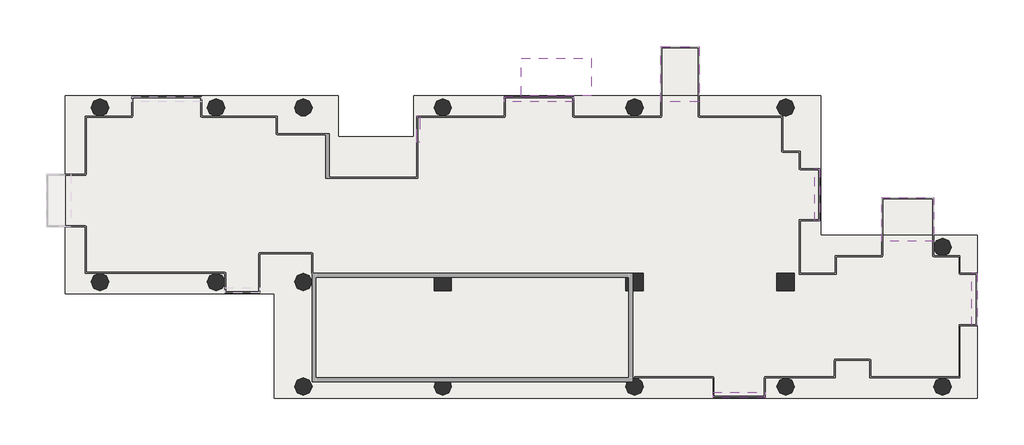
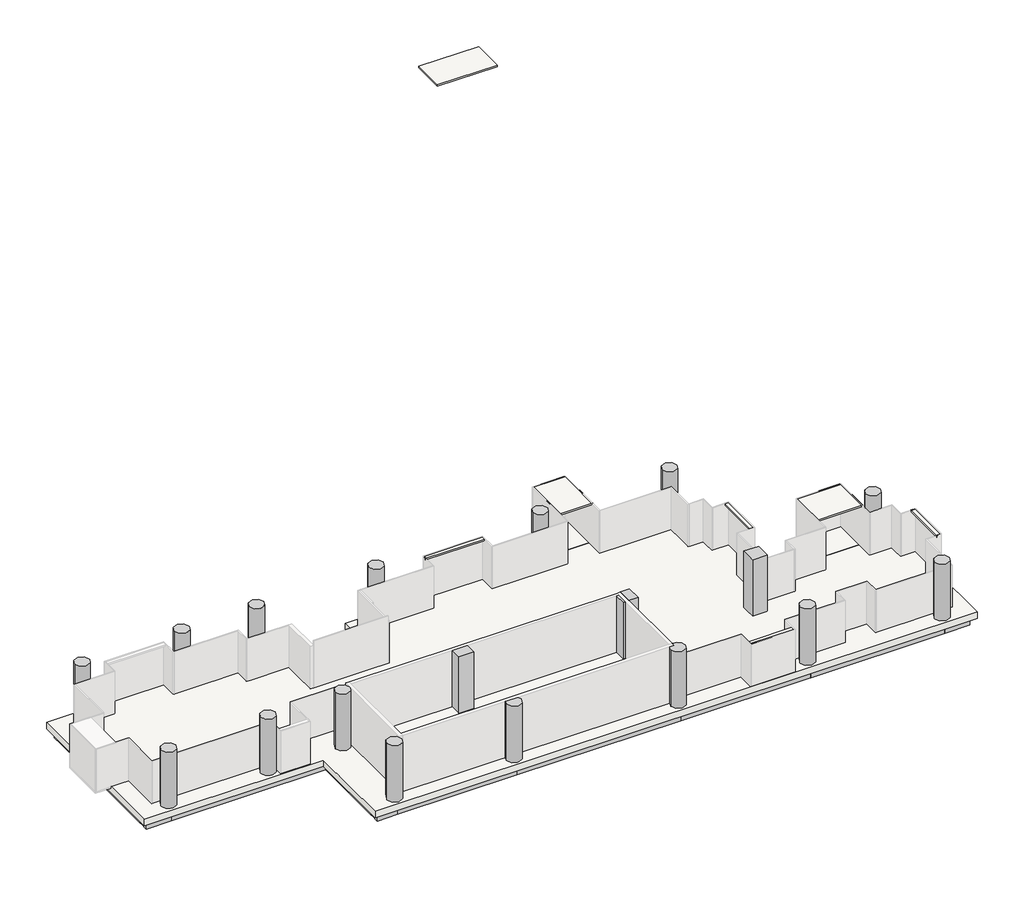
# One storey, part 2 of 2: 35 slabs, 25 beams, 18 columns.
"""IFC4 building model written with IfcOpenShell, lengths in millimetres."""

from ifc_helpers import new_model, si_unit, point, frame, frame_2d, origin, place, context, project, spatial, polyline, circle_curve, trimmed, segment, composite_curve, outline, extrude, transform, mapped, element, save
from ifc_brep_helpers import plane_surface, cylinder_surface, advanced_brep
from components import ajn_arc_ossature_rec_ba_700x600_5242ffbb, ajn_arc_ossature_rec_ba_700x600_213c05e2, ajn_arc_ossature_rec_ba_700x600_4d623bda, ajn_arc_ossature_rec_ba_700x600_c2a8f1af, ajn_arc_ossature_rec_ba_700x600_b2f97811, ajn_arc_ossature_rec_ba_700x600_e688680c, ajn_arc_ossature_rec_ba_700x600_8adee879, ajn_arc_ossature_rec_ba_700x600_6677e51c, ajn_arc_ossature_rec_ba_700x600_60e35d56, ajn_arc_ossature_rec_ba_700x600_9ae0f913, ajn_arc_ossature_rec_ba_700x600_5c14351b, ajn_arc_ossature_rec_ba_700x600_e883967f, ajn_arc_ossature_rec_ba_700x600_0984b03c, ajn_arc_ossature_rec_ba_700x600_78f846f2, ajn_arc_ossature_rec_ba_700x600_e869caa8, ajn_arc_ossature_rec_ba_700x600_0388eb48, ajn_arc_ossature_rec_ba_700x600_e143517c, ajn_arc_ossature_rec_ba_700x600_758f1bfa, ajn_arc_ossature_rec_ba_700x600_64ba80e1, ajn_arc_poteau_circulaire_8d925d50

model = new_model("IFC4")

# Units and contexts
model_context = context("Model", 3, world=origin())
ifc_project = project(units=[si_unit("LENGTHUNIT", "METRE", prefix="MILLI")], contexts=[model_context])

# Site, building, storey
site = spatial("IfcSite", under=ifc_project)
building = spatial("IfcBuilding", under=site)
storey = spatial("IfcBuildingStorey", under=building, Name="TW-L 09", Elevation=31599.9999686)

# Beams
placement = place(None, origin())
ajn_arc_ossature_rec_ba_700x600_shape = ajn_arc_ossature_rec_ba_700x600_5242ffbb(model_context)
element("IfcBeam", 1, ObjectType="AJN-ARC-OSSATURE REC-BA : 700x600", at=placement, inside=storey, context=model_context, shape_type="MappedRepresentation", body=[
    mapped(ajn_arc_ossature_rec_ba_700x600_shape, transform((119350.0, 39300.0, 31049.9999686), x_axis=(-1.0, 0.0, 0.0), y_axis=(0.0, -1.0, 0.0), z_axis=(0.0, 0.0, 1.0))),
])
ajn_arc_ossature_rec_ba_700x600_2_shape = ajn_arc_ossature_rec_ba_700x600_213c05e2(model_context)
element("IfcBeam", 2, ObjectType="AJN-ARC-OSSATURE REC-BA : 700x600", at=placement, inside=storey, context=model_context, shape_type="MappedRepresentation", body=[
    mapped(ajn_arc_ossature_rec_ba_700x600_2_shape, transform((100900.0, 34800.0, 31049.9999686), x_axis=(0.0, -1.0, 0.0), y_axis=(1.0, 0.0, 0.0), z_axis=(0.0, 0.0, 1.0))),
])
ajn_arc_ossature_rec_ba_700x600_3_shape = ajn_arc_ossature_rec_ba_700x600_4d623bda(model_context)
element("IfcBeam", 3, ObjectType="AJN-ARC-OSSATURE REC-BA : 700x600", at=placement, inside=storey, context=model_context, shape_type="MappedRepresentation", body=[
    mapped(ajn_arc_ossature_rec_ba_700x600_3_shape, transform((112150.0, 24900.0, 31049.9999686), x_axis=(1.0, 0.0, 0.0), y_axis=(0.0, 1.0, 0.0), z_axis=(0.0, 0.0, 1.0))),
])
ajn_arc_ossature_rec_ba_700x600_4_shape = ajn_arc_ossature_rec_ba_700x600_c2a8f1af(model_context)
element("IfcBeam", 4, ObjectType="AJN-ARC-OSSATURE REC-BA : 700x600", at=placement, inside=storey, context=model_context, shape_type="MappedRepresentation", body=[
    mapped(ajn_arc_ossature_rec_ba_700x600_4_shape, transform((116200.0, 24900.0, 31049.9999686), x_axis=(1.0, 0.0, 0.0), y_axis=(0.0, 1.0, 0.0), z_axis=(0.0, 0.0, 1.0))),
])
ajn_arc_ossature_rec_ba_700x600_5_shape = ajn_arc_ossature_rec_ba_700x600_b2f97811(model_context)
element("IfcBeam", 5, ObjectType="AJN-ARC-OSSATURE REC-BA : 700x600", at=placement, inside=storey, context=model_context, shape_type="MappedRepresentation", body=[
    mapped(ajn_arc_ossature_rec_ba_700x600_5_shape, transform((106900.0, 30300.0, 31049.9999686), x_axis=(1.0, 0.0, 0.0), y_axis=(0.0, 1.0, 0.0), z_axis=(0.0, 0.0, 1.0))),
])
ajn_arc_ossature_rec_ba_700x600_6_shape = ajn_arc_ossature_rec_ba_700x600_e688680c(model_context)
element("IfcBeam", 6, ObjectType="AJN-ARC-OSSATURE REC-BA : 700x600", at=placement, inside=storey, context=model_context, shape_type="MappedRepresentation", body=[
    mapped(ajn_arc_ossature_rec_ba_700x600_6_shape, transform((111700.0, 27600.0, 31049.9999686), x_axis=(0.0, -1.0, 0.0), y_axis=(1.0, 0.0, 0.0), z_axis=(0.0, 0.0, 1.0))),
])
ajn_arc_ossature_rec_ba_700x600_7_shape = ajn_arc_ossature_rec_ba_700x600_8adee879(model_context)
element("IfcBeam", 7, ObjectType="AJN-ARC-OSSATURE REC-BA : 700x600", at=placement, inside=storey, context=model_context, shape_type="MappedRepresentation", body=[
    mapped(ajn_arc_ossature_rec_ba_700x600_7_shape, transform((124750.0, 24900.0, 31049.9999686), x_axis=(1.0, 0.0, 0.0), y_axis=(0.0, 1.0, 0.0), z_axis=(0.0, 0.0, 1.0))),
])
element("IfcBeam", 8, ObjectType="AJN-ARC-OSSATURE REC-BA : 700x600", at=placement, inside=storey, context=model_context, shape_type="MappedRepresentation", body=[
    mapped(ajn_arc_ossature_rec_ba_700x600_7_shape, transform((124750.0, 39300.0, 31049.9999686), x_axis=(-1.0, 0.0, 0.0), y_axis=(0.0, -1.0, 0.0), z_axis=(0.0, 0.0, 1.0))),
])
ajn_arc_ossature_rec_ba_700x600_8_shape = ajn_arc_ossature_rec_ba_700x600_6677e51c(model_context)
element("IfcBeam", 9, ObjectType="AJN-ARC-OSSATURE REC-BA : 700x600", at=placement, inside=storey, context=model_context, shape_type="MappedRepresentation", body=[
    mapped(ajn_arc_ossature_rec_ba_700x600_8_shape, transform((133600.0, 24900.0, 31049.9999686), x_axis=(1.0, 0.0, 0.0), y_axis=(0.0, 1.0, 0.0), z_axis=(0.0, 0.0, 1.0))),
])
ajn_arc_ossature_rec_ba_700x600_9_shape = ajn_arc_ossature_rec_ba_700x600_60e35d56(model_context)
element("IfcBeam", 10, ObjectType="AJN-ARC-OSSATURE REC-BA : 700x600", at=placement, inside=storey, context=model_context, shape_type="MappedRepresentation", body=[
    mapped(ajn_arc_ossature_rec_ba_700x600_9_shape, transform((141550.0, 24900.0, 31049.9999686), x_axis=(1.0, 0.0, 0.0), y_axis=(0.0, 1.0, 0.0), z_axis=(0.0, 0.0, 1.0))),
])
ajn_arc_ossature_rec_ba_700x600_10_shape = ajn_arc_ossature_rec_ba_700x600_9ae0f913(model_context)
element("IfcBeam", 11, ObjectType="AJN-ARC-OSSATURE REC-BA : 700x600", at=placement, inside=storey, context=model_context, shape_type="MappedRepresentation", body=[
    mapped(ajn_arc_ossature_rec_ba_700x600_10_shape, transform((146200.0, 24900.0, 31049.9999686), x_axis=(1.0, 0.0, 0.0), y_axis=(0.0, 1.0, 0.0), z_axis=(0.0, 0.0, 1.0))),
])
element("IfcBeam", 12, ObjectType="AJN-ARC-OSSATURE REC-BA : 700x600", at=placement, inside=storey, context=model_context, shape_type="MappedRepresentation", body=[
    mapped(ajn_arc_ossature_rec_ba_700x600_10_shape, transform((101500.0, 39300.0, 31049.9999686), x_axis=(-1.0, 0.0, 0.0), y_axis=(0.0, -1.0, 0.0), z_axis=(0.0, 0.0, 1.0))),
])
ajn_arc_ossature_rec_ba_700x600_11_shape = ajn_arc_ossature_rec_ba_700x600_5c14351b(model_context)
element("IfcBeam", 13, ObjectType="AJN-ARC-OSSATURE REC-BA : 700x600", at=placement, inside=storey, context=model_context, shape_type="MappedRepresentation", body=[
    mapped(ajn_arc_ossature_rec_ba_700x600_11_shape, transform((146800.0, 28500.0, 31049.9999686), x_axis=(0.0, 1.0, 0.0), y_axis=(-1.0, 0.0, 0.0), z_axis=(0.0, 0.0, 1.0))),
])
element("IfcBeam", 14, ObjectType="AJN-ARC-OSSATURE REC-BA : 700x600", at=placement, inside=storey, context=model_context, shape_type="MappedRepresentation", body=[
    mapped(ajn_arc_ossature_rec_ba_700x600_11_shape, transform((138700.0, 35700.0, 31049.9999686), x_axis=(0.0, 1.0, 0.0), y_axis=(-1.0, 0.0, 0.0), z_axis=(0.0, 0.0, 1.0))),
])
ajn_arc_ossature_rec_ba_700x600_12_shape = ajn_arc_ossature_rec_ba_700x600_e883967f(model_context)
element("IfcBeam", 15, ObjectType="AJN-ARC-OSSATURE REC-BA : 700x600", at=placement, inside=storey, context=model_context, shape_type="MappedRepresentation", body=[
    mapped(ajn_arc_ossature_rec_ba_700x600_12_shape, transform((146200.0, 32100.0, 31049.9999686), x_axis=(-1.0, 0.0, 0.0), y_axis=(0.0, -1.0, 0.0), z_axis=(0.0, 0.0, 1.0))),
])
element("IfcBeam", 16, ObjectType="AJN-ARC-OSSATURE REC-BA : 700x600", at=placement, inside=storey, context=model_context, shape_type="MappedRepresentation", body=[
    mapped(ajn_arc_ossature_rec_ba_700x600_12_shape, transform((138100.0, 39300.0, 31049.9999686), x_axis=(-1.0, 0.0, 0.0), y_axis=(0.0, -1.0, 0.0), z_axis=(0.0, 0.0, 1.0))),
])
element("IfcBeam", 17, ObjectType="AJN-ARC-OSSATURE REC-BA : 700x600", at=placement, inside=storey, context=model_context, shape_type="MappedRepresentation", body=[
    mapped(ajn_arc_ossature_rec_ba_700x600_12_shape, transform((113200.0, 39300.0, 31049.9999686), x_axis=(-1.0, 0.0, 0.0), y_axis=(0.0, -1.0, 0.0), z_axis=(0.0, 0.0, 1.0))),
])
element("IfcBeam", 18, ObjectType="AJN-ARC-OSSATURE REC-BA : 700x600", at=placement, inside=storey, context=model_context, shape_type="MappedRepresentation", body=[
    mapped(ajn_arc_ossature_rec_ba_700x600_12_shape, transform((101500.0, 30300.0, 31049.9999686), x_axis=(1.0, 0.0, 0.0), y_axis=(0.0, 1.0, 0.0), z_axis=(0.0, 0.0, 1.0))),
])
ajn_arc_ossature_rec_ba_700x600_13_shape = ajn_arc_ossature_rec_ba_700x600_0984b03c(model_context)
element("IfcBeam", 19, ObjectType="AJN-ARC-OSSATURE REC-BA : 700x600", at=placement, inside=storey, context=model_context, shape_type="MappedRepresentation", body=[
    mapped(ajn_arc_ossature_rec_ba_700x600_13_shape, transform((142150.0, 32100.0, 31049.9999686), x_axis=(-1.0, 0.0, 0.0), y_axis=(0.0, -1.0, 0.0), z_axis=(0.0, 0.0, 1.0))),
])
ajn_arc_ossature_rec_ba_700x600_14_shape = ajn_arc_ossature_rec_ba_700x600_78f846f2(model_context)
element("IfcBeam", 20, ObjectType="AJN-ARC-OSSATURE REC-BA : 700x600", at=placement, inside=storey, context=model_context, shape_type="MappedRepresentation", body=[
    mapped(ajn_arc_ossature_rec_ba_700x600_14_shape, transform((133600.0, 39300.0, 31049.9999686), x_axis=(-1.0, 0.0, 0.0), y_axis=(0.0, -1.0, 0.0), z_axis=(0.0, 0.0, 1.0))),
])
ajn_arc_ossature_rec_ba_700x600_15_shape = ajn_arc_ossature_rec_ba_700x600_e869caa8(model_context)
element("IfcBeam", 21, ObjectType="AJN-ARC-OSSATURE REC-BA : 700x600", at=placement, inside=storey, context=model_context, shape_type="MappedRepresentation", body=[
    mapped(ajn_arc_ossature_rec_ba_700x600_15_shape, transform((118900.0, 38250.0, 31049.9999686), x_axis=(0.0, -1.0, 0.0), y_axis=(1.0, 0.0, 0.0), z_axis=(0.0, 0.0, 1.0))),
])
ajn_arc_ossature_rec_ba_700x600_16_shape = ajn_arc_ossature_rec_ba_700x600_0388eb48(model_context)
element("IfcBeam", 22, ObjectType="AJN-ARC-OSSATURE REC-BA : 700x600", at=placement, inside=storey, context=model_context, shape_type="MappedRepresentation", body=[
    mapped(ajn_arc_ossature_rec_ba_700x600_16_shape, transform((110350.0, 39300.0, 31049.9999686), x_axis=(-1.0, 0.0, 0.0), y_axis=(0.0, -1.0, 0.0), z_axis=(0.0, 0.0, 1.0))),
])
ajn_arc_ossature_rec_ba_700x600_17_shape = ajn_arc_ossature_rec_ba_700x600_e143517c(model_context)
element("IfcBeam", 23, ObjectType="AJN-ARC-OSSATURE REC-BA : 700x600", at=placement, inside=storey, context=model_context, shape_type="MappedRepresentation", body=[
    mapped(ajn_arc_ossature_rec_ba_700x600_17_shape, transform((105100.0, 39300.0, 31049.9999686), x_axis=(-1.0, 0.0, 0.0), y_axis=(0.0, -1.0, 0.0), z_axis=(0.0, 0.0, 1.0))),
])
ajn_arc_ossature_rec_ba_700x600_18_shape = ajn_arc_ossature_rec_ba_700x600_758f1bfa(model_context)
element("IfcBeam", 24, ObjectType="AJN-ARC-OSSATURE REC-BA : 700x600", at=placement, inside=storey, context=model_context, shape_type="MappedRepresentation", body=[
    mapped(ajn_arc_ossature_rec_ba_700x600_18_shape, transform((116350.0, 37200.0, 31049.9999686), x_axis=(-1.0, 0.0, 0.0), y_axis=(0.0, -1.0, 0.0), z_axis=(0.0, 0.0, 1.0))),
])
ajn_arc_ossature_rec_ba_700x600_19_shape = ajn_arc_ossature_rec_ba_700x600_64ba80e1(model_context)
element("IfcBeam", 25, ObjectType="AJN-ARC-OSSATURE REC-BA : 700x600", at=placement, inside=storey, context=model_context, shape_type="MappedRepresentation", body=[
    mapped(ajn_arc_ossature_rec_ba_700x600_19_shape, transform((113800.0, 38250.0, 31049.9999686), x_axis=(0.0, 1.0, 0.0), y_axis=(-1.0, 0.0, 0.0), z_axis=(0.0, 0.0, 1.0))),
])

# Columns
element("IfcColumn", 26, ObjectType="AJN-ARC-POTEAU CIRCULAIRE : ø90", at=placement, inside=storey, context=model_context, shape_type="SweptSolid", body=[
    extrude(outline(composite_curve([segment(trimmed(circle_curve(frame_2d((102100.0, 39300.0)), 450.0), [point((101650.0, 39300.0))], [point((102550.0, 39300.0))], False, "CARTESIAN"), True, "CONTINUOUS"), segment(trimmed(circle_curve(frame_2d((102100.0, 39300.0)), 450.0), [point((102550.0, 39300.0))], [point((101650.0, 39300.0))], False, "CARTESIAN"), True, "CONTINUOUS")], self_intersect=False)), frame((0.0, 0.0, 31599.9999686), z_axis=(0.0, 0.0, 1.0), x_axis=(1.0, 0.0, 0.0)), (0.0, 0.0, 1.0), 3600.0),
])
element("IfcColumn", 27, ObjectType="AJN-ARC-POTEAU CIRCULAIRE : ø90", at=placement, inside=storey, context=model_context, shape_type="SweptSolid", body=[
    extrude(outline(composite_curve([segment(trimmed(circle_curve(frame_2d((102100.0, 30300.0)), 450.0), [point((101650.0, 30300.0))], [point((102550.0, 30300.0))], False, "CARTESIAN"), True, "CONTINUOUS"), segment(trimmed(circle_curve(frame_2d((102100.0, 30300.0)), 450.0), [point((102550.0, 30300.0))], [point((101650.0, 30300.0))], False, "CARTESIAN"), True, "CONTINUOUS")], self_intersect=False)), frame((0.0, 0.0, 31599.9999686), z_axis=(0.0, 0.0, 1.0), x_axis=(1.0, 0.0, 0.0)), (0.0, 0.0, 1.0), 3600.0),
])
element("IfcColumn", 28, ObjectType="AJN-ARC-POTEAU CIRCULAIRE : ø90", at=placement, inside=storey, context=model_context, shape_type="AdvancedBrep", body=[
    advanced_brep(
    [(107650.0, 30300.0, 31599.9999686), (108547.1743518, 30350.3497671, 31599.9999686), (108547.1743518, 30249.6502329, 31599.9999686), (107650.0, 30300.0, 35199.9999686), (108550.0, 30300.0, 35199.9999686), (108550.0, 30300.0, 34299.9999686), (108547.1743518, 30350.3497671, 34299.9999686), (108547.1743518, 30249.6502329, 34299.9999686)],
    [
        (0, 1, circle_curve(frame((108100.0, 30300.0, 31599.9999686), z_axis=(0.0, 0.0, -1.0), x_axis=(1.0, 0.0, 0.0)), 450.0)),
        (1, 2),
        (2, 0, circle_curve(frame((108100.0, 30300.0, 31599.9999686), z_axis=(0.0, 0.0, -1.0), x_axis=(1.0, 0.0, 0.0)), 450.0)),
        (3, 4, circle_curve(frame((108100.0, 30300.0, 35199.9999686), z_axis=(0.0, 0.0, -1.0), x_axis=(1.0, 0.0, 0.0)), 450.0)),
        (4, 5),
        (5, 6, circle_curve(frame((108100.0, 30300.0, 34299.9999686), z_axis=(0.0, 0.0, 1.0), x_axis=(1.0, 0.0, 0.0)), 450.0)),
        (6, 1),
        (0, 3),
        (2, 7),
        (7, 5, circle_curve(frame((108100.0, 30300.0, 34299.9999686), z_axis=(0.0, 0.0, 1.0), x_axis=(1.0, 0.0, 0.0)), 450.0)),
        (4, 3, circle_curve(frame((108100.0, 30300.0, 35199.9999686), z_axis=(0.0, 0.0, -1.0), x_axis=(1.0, 0.0, 0.0)), 450.0)),
        (6, 7),
    ],
    [
        plane_surface(frame((108550.0, 30300.0, 31599.9999686), z_axis=(0.0, 0.0, -1.0), x_axis=(0.0, -1.0, 0.0))),
        cylinder_surface(frame((108100.0, 30300.0, 31599.9999686), z_axis=(0.0, 0.0, 1.0), x_axis=(1.0, 0.0, 0.0)), 450.0),
        plane_surface(frame((108550.0, 30300.0, 35199.9999686), z_axis=(0.0, 0.0, 1.0), x_axis=(0.0, 1.0, 0.0))),
        plane_surface(frame((108547.1743518, 30750.0, 31599.9999686), z_axis=(1.0, 0.0, 0.0), x_axis=(0.0, -1.0, 0.0))),
        plane_surface(frame((108547.1743518, 29775.0, 34299.9999686), z_axis=(0.0, 0.0, -1.0), x_axis=(1.0, 0.0, 0.0))),
    ],
    [
        (0, [[1, 2, 3]]),
        (1, [[4, 5, 6, 7, -1, 8]]),
        (1, [[-8, -3, 9, 10, -5, 11]]),
        (2, [[-4, -11]]),
        (3, [[12, -9, -2, -7]]),
        (4, [[-12, -6, -10]]),
    ],
),
])
element("IfcColumn", 29, ObjectType="AJN-ARC-POTEAU CIRCULAIRE : ø90", at=placement, inside=storey, context=model_context, shape_type="SweptSolid", body=[
    extrude(outline(composite_curve([segment(trimmed(circle_curve(frame_2d((108100.0, 39300.0)), 450.0), [point((107650.0, 39300.0))], [point((108550.0, 39300.0))], False, "CARTESIAN"), True, "CONTINUOUS"), segment(trimmed(circle_curve(frame_2d((108100.0, 39300.0)), 450.0), [point((108550.0, 39300.0))], [point((107650.0, 39300.0))], False, "CARTESIAN"), True, "CONTINUOUS")], self_intersect=False)), frame((0.0, 0.0, 31599.9999686), z_axis=(0.0, 0.0, 1.0), x_axis=(1.0, 0.0, 0.0)), (0.0, 0.0, 1.0), 3600.0),
])
element("IfcColumn", 30, ObjectType="AJN-ARC-POTEAU CIRCULAIRE : ø90", at=placement, inside=storey, context=model_context, shape_type="SweptSolid", body=[
    extrude(outline(composite_curve([segment(trimmed(circle_curve(frame_2d((112600.0, 30300.0)), 450.0), [point((112150.0, 30300.0))], [point((113050.0, 30300.0))], False, "CARTESIAN"), True, "CONTINUOUS"), segment(trimmed(circle_curve(frame_2d((112600.0, 30300.0)), 450.0), [point((113050.0, 30300.0))], [point((112150.0, 30300.0))], False, "CARTESIAN"), True, "CONTINUOUS")], self_intersect=False)), frame((0.0, 0.0, 31599.9999686), z_axis=(0.0, 0.0, 1.0), x_axis=(1.0, 0.0, 0.0)), (0.0, 0.0, 1.0), 3600.0),
])
element("IfcColumn", 31, ObjectType="AJN-ARC-POTEAU CIRCULAIRE : ø90", at=placement, inside=storey, context=model_context, shape_type="SweptSolid", body=[
    extrude(outline(composite_curve([segment(trimmed(circle_curve(frame_2d((112600.0, 24900.0)), 450.0), [point((112150.0, 24900.0))], [point((113050.0, 24900.0))], False, "CARTESIAN"), True, "CONTINUOUS"), segment(trimmed(circle_curve(frame_2d((112600.0, 24900.0)), 450.0), [point((113050.0, 24900.0))], [point((112150.0, 24900.0))], False, "CARTESIAN"), True, "CONTINUOUS")], self_intersect=False)), frame((0.0, 0.0, 31599.9999686), z_axis=(0.0, 0.0, 1.0), x_axis=(1.0, 0.0, 0.0)), (0.0, 0.0, 1.0), 3600.0),
])
element("IfcColumn", 32, ObjectType="AJN-ARC-POTEAU CIRCULAIRE : ø90", at=placement, inside=storey, context=model_context, shape_type="SweptSolid", body=[
    extrude(outline(composite_curve([segment(trimmed(circle_curve(frame_2d((119800.0, 24900.0)), 450.0), [point((120250.0, 24900.0))], [point((119350.0, 24900.0))], False, "CARTESIAN"), True, "CONTINUOUS"), segment(trimmed(circle_curve(frame_2d((119800.0, 24900.0)), 450.0), [point((119350.0, 24900.0))], [point((119425.8342613, 25150.0))], False, "CARTESIAN"), True, "CONTINUOUS"), segment(polyline([(119425.8342613, 25150.0), (120174.1657387, 25150.0)]), True, "CONTINUOUS"), segment(trimmed(circle_curve(frame_2d((119800.0, 24900.0)), 450.0), [point((120174.1657387, 25150.0))], [point((120250.0, 24900.0))], False, "CARTESIAN"), True, "CONTINUOUS")], self_intersect=False)), frame((0.0, 0.0, 31599.9999686), z_axis=(0.0, 0.0, 1.0), x_axis=(1.0, 0.0, 0.0)), (0.0, 0.0, 1.0), 3600.0),
])
element("IfcColumn", 33, ObjectType="AJN-ARC-POTEAU CIRCULAIRE : ø90", at=placement, inside=storey, context=model_context, shape_type="SweptSolid", body=[
    extrude(outline(composite_curve([segment(trimmed(circle_curve(frame_2d((119800.0, 39300.0)), 450.0), [point((119350.0, 39300.0))], [point((120250.0, 39300.0))], False, "CARTESIAN"), True, "CONTINUOUS"), segment(trimmed(circle_curve(frame_2d((119800.0, 39300.0)), 450.0), [point((120250.0, 39300.0))], [point((119350.0, 39300.0))], False, "CARTESIAN"), True, "CONTINUOUS")], self_intersect=False)), frame((0.0, 0.0, 31599.9999686), z_axis=(0.0, 0.0, 1.0), x_axis=(1.0, 0.0, 0.0)), (0.0, 0.0, 1.0), 3600.0),
])
element("IfcColumn", 34, ObjectType="AJN-ARC-POTEAU CIRCULAIRE : ø90", at=placement, inside=storey, context=model_context, shape_type="SweptSolid", body=[
    extrude(outline(composite_curve([segment(trimmed(circle_curve(frame_2d((129700.0, 39300.0)), 450.0), [point((129250.0, 39300.0))], [point((130150.0, 39300.0))], False, "CARTESIAN"), True, "CONTINUOUS"), segment(trimmed(circle_curve(frame_2d((129700.0, 39300.0)), 450.0), [point((130150.0, 39300.0))], [point((129250.0, 39300.0))], False, "CARTESIAN"), True, "CONTINUOUS")], self_intersect=False)), frame((0.0, 0.0, 31599.9999686), z_axis=(0.0, 0.0, 1.0), x_axis=(1.0, 0.0, 0.0)), (0.0, 0.0, 1.0), 3600.0),
])
element("IfcColumn", 35, ObjectType="AJN-ARC-POTEAU CIRCULAIRE : ø90", at=placement, inside=storey, context=model_context, shape_type="SweptSolid", body=[
    extrude(outline(composite_curve([segment(trimmed(circle_curve(frame_2d((129700.0, 24900.0)), 450.0), [point((130150.0, 24900.0))], [point((129250.0, 24900.0))], False, "CARTESIAN"), True, "CONTINUOUS"), segment(trimmed(circle_curve(frame_2d((129700.0, 24900.0)), 450.0), [point((129250.0, 24900.0))], [point((129325.8342613, 25150.0))], False, "CARTESIAN"), True, "CONTINUOUS"), segment(polyline([(129325.8342613, 25150.0), (129600.0, 25150.0), (129600.0, 25338.7482194)]), True, "CONTINUOUS"), segment(trimmed(circle_curve(frame_2d((129700.0, 24900.0)), 450.0), [point((129600.0, 25338.7482194))], [point((130150.0, 24900.0))], False, "CARTESIAN"), True, "CONTINUOUS")], self_intersect=False)), frame((0.0, 0.0, 31599.9999686), z_axis=(0.0, 0.0, 1.0), x_axis=(1.0, 0.0, 0.0)), (0.0, 0.0, 1.0), 3600.0),
])
element("IfcColumn", 36, ObjectType="AJN-ARC-POTEAU CIRCULAIRE : ø90", at=placement, inside=storey, context=model_context, shape_type="SweptSolid", body=[
    extrude(outline(composite_curve([segment(trimmed(circle_curve(frame_2d((137500.0, 39300.0)), 450.0), [point((137050.0, 39300.0))], [point((137950.0, 39300.0))], False, "CARTESIAN"), True, "CONTINUOUS"), segment(trimmed(circle_curve(frame_2d((137500.0, 39300.0)), 450.0), [point((137950.0, 39300.0))], [point((137050.0, 39300.0))], False, "CARTESIAN"), True, "CONTINUOUS")], self_intersect=False)), frame((0.0, 0.0, 31599.9999686), z_axis=(0.0, 0.0, 1.0), x_axis=(1.0, 0.0, 0.0)), (0.0, 0.0, 1.0), 3600.0),
])
element("IfcColumn", 37, ObjectType="AJN-ARC-POTEAU CIRCULAIRE : ø90", at=placement, inside=storey, context=model_context, shape_type="SweptSolid", body=[
    extrude(outline(composite_curve([segment(trimmed(circle_curve(frame_2d((137500.0, 24900.0)), 450.0), [point((137050.0, 24900.0))], [point((137950.0, 24900.0))], False, "CARTESIAN"), True, "CONTINUOUS"), segment(trimmed(circle_curve(frame_2d((137500.0, 24900.0)), 450.0), [point((137950.0, 24900.0))], [point((137050.0, 24900.0))], False, "CARTESIAN"), True, "CONTINUOUS")], self_intersect=False)), frame((0.0, 0.0, 31599.9999686), z_axis=(0.0, 0.0, 1.0), x_axis=(1.0, 0.0, 0.0)), (0.0, 0.0, 1.0), 3600.0),
])
element("IfcColumn", 38, ObjectType="AJN-ARC-POTEAU CIRCULAIRE : ø90", at=placement, inside=storey, context=model_context, shape_type="SweptSolid", body=[
    extrude(outline(composite_curve([segment(trimmed(circle_curve(frame_2d((145600.0, 24900.0)), 450.0), [point((145150.0, 24900.0))], [point((146050.0, 24900.0))], False, "CARTESIAN"), True, "CONTINUOUS"), segment(trimmed(circle_curve(frame_2d((145600.0, 24900.0)), 450.0), [point((146050.0, 24900.0))], [point((145150.0, 24900.0))], False, "CARTESIAN"), True, "CONTINUOUS")], self_intersect=False)), frame((0.0, 0.0, 31599.9999686), z_axis=(0.0, 0.0, 1.0), x_axis=(1.0, 0.0, 0.0)), (0.0, 0.0, 1.0), 3600.0),
])
element("IfcColumn", 39, ObjectType="AJN-ARC-POTEAU CIRCULAIRE : ø90", at=placement, inside=storey, context=model_context, shape_type="AdvancedBrep", body=[
    advanced_brep(
    [(145150.0, 32100.0, 31599.9999686), (146050.0, 32100.0, 31599.9999686), (145638.6089983, 31651.6593424, 31599.9999686), (145561.3910017, 31651.6593424, 31599.9999686), (145150.0, 32100.0, 35199.9999686), (146050.0, 32100.0, 35199.9999686), (145561.3910017, 31651.6593424, 34299.9999686), (145638.6089983, 31651.6593424, 34299.9999686)],
    [
        (0, 1, circle_curve(frame((145600.0, 32100.0, 31599.9999686), z_axis=(0.0, 0.0, -1.0), x_axis=(1.0, 0.0, 0.0)), 450.0)),
        (1, 2, circle_curve(frame((145600.0, 32100.0, 31599.9999686), z_axis=(0.0, 0.0, -1.0), x_axis=(1.0, 0.0, 0.0)), 450.0)),
        (2, 3),
        (3, 0, circle_curve(frame((145600.0, 32100.0, 31599.9999686), z_axis=(0.0, 0.0, -1.0), x_axis=(1.0, 0.0, 0.0)), 450.0)),
        (0, 4),
        (4, 5, circle_curve(frame((145600.0, 32100.0, 35199.9999686), z_axis=(0.0, 0.0, -1.0), x_axis=(1.0, 0.0, 0.0)), 450.0)),
        (5, 1),
        (5, 4, circle_curve(frame((145600.0, 32100.0, 35199.9999686), z_axis=(0.0, 0.0, -1.0), x_axis=(1.0, 0.0, 0.0)), 450.0)),
        (3, 6),
        (6, 7, circle_curve(frame((145600.0, 32100.0, 34299.9999686), z_axis=(0.0, 0.0, 1.0), x_axis=(1.0, 0.0, 0.0)), 450.0)),
        (7, 2),
        (7, 6),
    ],
    [
        plane_surface(frame((146050.0, 32100.0, 31599.9999686), z_axis=(0.0, 0.0, -1.0), x_axis=(0.0, -1.0, 0.0))),
        cylinder_surface(frame((145600.0, 32100.0, 31599.9999686), z_axis=(0.0, 0.0, 1.0), x_axis=(1.0, 0.0, 0.0)), 450.0),
        plane_surface(frame((146050.0, 32100.0, 35199.9999686), z_axis=(0.0, 0.0, 1.0), x_axis=(0.0, 1.0, 0.0))),
        plane_surface(frame((146472.681474, 31651.6593424, 31599.9999686), z_axis=(0.0, -1.0, 0.0), x_axis=(-1.0, 0.0, 0.0))),
        plane_surface(frame((145150.0, 31651.6593424, 34299.9999686), z_axis=(0.0, 0.0, -1.0), x_axis=(0.0, -1.0, 0.0))),
    ],
    [
        (0, [[1, 2, 3, 4]]),
        (1, [[-1, 5, 6, 7]]),
        (1, [[-7, 8, -5, -4, 9, 10, 11, -2]]),
        (2, [[-6, -8]]),
        (3, [[12, -9, -3, -11]]),
        (4, [[-12, -10]]),
    ],
),
])
ajn_arc_poteau_circulaire_shape = ajn_arc_poteau_circulaire_8d925d50(model_context)
element("IfcColumn", 40, ObjectType="AJN-ARC-POTEAU CIRCULAIRE : ø90", at=placement, inside=storey, context=model_context, shape_type="MappedRepresentation", body=[
    mapped(ajn_arc_poteau_circulaire_shape, transform((112600.0, 39300.0, 0.0), x_axis=(1.0, 0.0, 0.0), y_axis=(0.0, 1.0, 0.0), z_axis=(0.0, 0.0, 1.0))),
])
element("IfcColumn", 41, ObjectType="AJN-ARC-POTEAU RECTANGULAIRE : 900 mm x 900 mm", at=placement, inside=storey, context=model_context, shape_type="SweptSolid", body=[
    extrude(outline(polyline([(137950.0, 30750.0), (137950.0, 29850.0), (137050.0, 29850.0), (137050.0, 30750.0), (137950.0, 30750.0)])), frame((0.0, 0.0, 31599.9999686), z_axis=(0.0, 0.0, 1.0), x_axis=(1.0, 0.0, 0.0)), (0.0, 0.0, 1.0), 3600.0),
])
element("IfcColumn", 42, ObjectType="AJN-ARC-POTEAU RECTANGULAIRE : 900 mm x 900 mm", at=placement, inside=storey, context=model_context, shape_type="SweptSolid", body=[
    extrude(outline(polyline([(129400.0, 29850.0), (129250.0, 29850.0), (129250.0, 30550.0), (129400.0, 30550.0), (129400.0, 29850.0)])), frame((0.0, 0.0, 31599.9999686), z_axis=(0.0, 0.0, 1.0), x_axis=(1.0, 0.0, 0.0)), (0.0, 0.0, 1.0), 3600.0),
    extrude(outline(polyline([(130150.0, 30750.0), (130150.0, 29850.0), (129600.0, 29850.0), (129600.0, 30750.0), (130150.0, 30750.0)])), frame((0.0, 0.0, 31599.9999686), z_axis=(0.0, 0.0, 1.0), x_axis=(1.0, 0.0, 0.0)), (0.0, 0.0, 1.0), 3600.0),
])
element("IfcColumn", 43, ObjectType="AJN-ARC-POTEAU RECTANGULAIRE : 900 mm x 900 mm", at=placement, inside=storey, context=model_context, shape_type="SweptSolid", body=[
    extrude(outline(polyline([(120250.0, 29850.0), (119350.0, 29850.0), (119350.0, 30550.0), (120250.0, 30550.0), (120250.0, 29850.0)])), frame((0.0, 0.0, 31599.9999686), z_axis=(0.0, 0.0, 1.0), x_axis=(1.0, 0.0, 0.0)), (0.0, 0.0, 1.0), 3600.0),
])

# Slabs
element("IfcSlab", 44, ObjectType="AJN-ARC-SLAB-10cm", at=placement, inside=storey, context=model_context, shape_type="SweptSolid", body=[
    extrude(outline(polyline([(145150.0, 32700.0), (142450.0, 32700.0), (142450.0, 34651.6593424), (145150.0, 34651.6593424), (145150.0, 32700.0)])), frame((0.0, 0.0, 31499.9999686), z_axis=(0.0, 0.0, 1.0), x_axis=(1.0, 0.0, 0.0)), (0.0, 0.0, 1.0), 100.0),
])
element("IfcSlab", 45, ObjectType="AJN-ARC-SLAB-10cm", at=placement, inside=storey, context=model_context, shape_type="SweptSolid", body=[
    extrude(outline(polyline([(133050.0, 39900.0), (131050.0, 39900.0), (131050.0, 42450.0), (133050.0, 42450.0), (133050.0, 39900.0)])), frame((0.0, 0.0, 31499.9999686), z_axis=(0.0, 0.0, 1.0), x_axis=(1.0, 0.0, 0.0)), (0.0, 0.0, 1.0), 100.0),
])
element("IfcSlab", 46, ObjectType="AJN-ARC-SLAB-10cm", at=placement, inside=storey, context=model_context, shape_type="SweptSolid", body=[
    extrude(outline(polyline([(133050.0, 39900.0), (131050.0, 39900.0), (131050.0, 42450.0), (133050.0, 42450.0), (133050.0, 39900.0)])), frame((0.0, 0.0, 31499.9999686), z_axis=(0.0, 0.0, 1.0), x_axis=(1.0, 0.0, 0.0)), (0.0, 0.0, 1.0), 100.0),
])
element("IfcSlab", 47, ObjectType="AJN-ARC-SLAB-10cm", at=placement, inside=storey, context=model_context, shape_type="SweptSolid", body=[
    extrude(outline(polyline([(133050.0, 39900.0), (131050.0, 39900.0), (131050.0, 42450.0), (133050.0, 42450.0), (133050.0, 39900.0)])), frame((0.0, 0.0, 31499.9999686), z_axis=(0.0, 0.0, 1.0), x_axis=(1.0, 0.0, 0.0)), (0.0, 0.0, 1.0), 100.0),
])
element("IfcSlab", 48, ObjectType="AJN-ARC-SLAB-10cm", at=placement, inside=storey, context=model_context, shape_type="SweptSolid", body=[
    extrude(outline(polyline([(133050.0, 39900.0), (131050.0, 39900.0), (131050.0, 42450.0), (133050.0, 42450.0), (133050.0, 39900.0)])), frame((0.0, 0.0, 31499.9999686), z_axis=(0.0, 0.0, 1.0), x_axis=(1.0, 0.0, 0.0)), (0.0, 0.0, 1.0), 100.0),
])
element("IfcSlab", 49, ObjectType="AJN-ARC-SLAB-10cm", at=placement, inside=storey, context=model_context, shape_type="SweptSolid", body=[
    extrude(outline(polyline([(133050.0, 39900.0), (131050.0, 39900.0), (131050.0, 42450.0), (133050.0, 42450.0), (133050.0, 39900.0)])), frame((0.0, 0.0, 31499.9999686), z_axis=(0.0, 0.0, 1.0), x_axis=(1.0, 0.0, 0.0)), (0.0, 0.0, 1.0), 100.0),
])
element("IfcSlab", 50, ObjectType="AJN-ARC-SLAB-10cm", at=placement, inside=storey, context=model_context, shape_type="SweptSolid", body=[
    extrude(outline(polyline([(133050.0, 39900.0), (131050.0, 39900.0), (131050.0, 42450.0), (133050.0, 42450.0), (133050.0, 39900.0)])), frame((0.0, 0.0, 31499.9999686), z_axis=(0.0, 0.0, 1.0), x_axis=(1.0, 0.0, 0.0)), (0.0, 0.0, 1.0), 100.0),
])
element("IfcSlab", 51, ObjectType="AJN-ARC-SLAB-10cm", at=placement, inside=storey, context=model_context, shape_type="SweptSolid", body=[
    extrude(outline(polyline([(133050.0, 39900.0), (131050.0, 39900.0), (131050.0, 42450.0), (133050.0, 42450.0), (133050.0, 39900.0)])), frame((0.0, 0.0, 31499.9999686), z_axis=(0.0, 0.0, 1.0), x_axis=(1.0, 0.0, 0.0)), (0.0, 0.0, 1.0), 100.0),
])
element("IfcSlab", 52, ObjectType="AJN-ARC-SLAB-10cm", at=placement, inside=storey, context=model_context, shape_type="SweptSolid", body=[
    extrude(outline(polyline([(133050.0, 39900.0), (131050.0, 39900.0), (131050.0, 42450.0), (133050.0, 42450.0), (133050.0, 39900.0)])), frame((0.0, 0.0, 31499.9999686), z_axis=(0.0, 0.0, 1.0), x_axis=(1.0, 0.0, 0.0)), (0.0, 0.0, 1.0), 100.0),
])
element("IfcSlab", 53, ObjectType="AJN-ARC-SLAB-10cm", at=placement, inside=storey, context=model_context, shape_type="SweptSolid", body=[
    extrude(outline(polyline([(133050.0, 39900.0), (131050.0, 39900.0), (131050.0, 42450.0), (133050.0, 42450.0), (133050.0, 39900.0)])), frame((0.0, 0.0, 31499.9999686), z_axis=(0.0, 0.0, 1.0), x_axis=(1.0, 0.0, 0.0)), (0.0, 0.0, 1.0), 100.0),
])
element("IfcSlab", 54, ObjectType="AJN-ARC-SLAB-10cm", at=placement, inside=storey, context=model_context, shape_type="SweptSolid", body=[
    extrude(outline(polyline([(133050.0, 39900.0), (131050.0, 39900.0), (131050.0, 42450.0), (133050.0, 42450.0), (133050.0, 39900.0)])), frame((0.0, 0.0, 31499.9999686), z_axis=(0.0, 0.0, 1.0), x_axis=(1.0, 0.0, 0.0)), (0.0, 0.0, 1.0), 100.0),
])
element("IfcSlab", 55, ObjectType="AJN-ARC-SLAB-10cm", at=placement, inside=storey, context=model_context, shape_type="SweptSolid", body=[
    extrude(outline(polyline([(133050.0, 39900.0), (131050.0, 39900.0), (131050.0, 42450.0), (133050.0, 42450.0), (133050.0, 39900.0)])), frame((0.0, 0.0, 31499.9999686), z_axis=(0.0, 0.0, 1.0), x_axis=(1.0, 0.0, 0.0)), (0.0, 0.0, 1.0), 100.0),
])
element("IfcSlab", 56, ObjectType="AJN-ARC-SLAB-10cm", at=placement, inside=storey, context=model_context, shape_type="SweptSolid", body=[
    extrude(outline(polyline([(133050.0, 39900.0), (131050.0, 39900.0), (131050.0, 42450.0), (133050.0, 42450.0), (133050.0, 39900.0)])), frame((0.0, 0.0, 31499.9999686), z_axis=(0.0, 0.0, 1.0), x_axis=(1.0, 0.0, 0.0)), (0.0, 0.0, 1.0), 100.0),
])
element("IfcSlab", 57, ObjectType="AJN-ARC-SLAB-10cm", at=placement, inside=storey, context=model_context, shape_type="SweptSolid", body=[
    extrude(outline(polyline([(133050.0, 39900.0), (131050.0, 39900.0), (131050.0, 42450.0), (133050.0, 42450.0), (133050.0, 39900.0)])), frame((0.0, 0.0, 31499.9999686), z_axis=(0.0, 0.0, 1.0), x_axis=(1.0, 0.0, 0.0)), (0.0, 0.0, 1.0), 100.0),
])
element("IfcSlab", 58, ObjectType="AJN-ARC-SLAB-10cm", at=placement, inside=storey, context=model_context, shape_type="SweptSolid", body=[
    extrude(outline(polyline([(133050.0, 39900.0), (131050.0, 39900.0), (131050.0, 42450.0), (133050.0, 42450.0), (133050.0, 39900.0)])), frame((0.0, 0.0, 31499.9999686), z_axis=(0.0, 0.0, 1.0), x_axis=(1.0, 0.0, 0.0)), (0.0, 0.0, 1.0), 100.0),
])
element("IfcSlab", 59, ObjectType="AJN-ARC-SLAB-10cm", at=placement, inside=storey, context=model_context, shape_type="SweptSolid", body=[
    extrude(outline(polyline([(133050.0, 39900.0), (131050.0, 39900.0), (131050.0, 42450.0), (133050.0, 42450.0), (133050.0, 39900.0)])), frame((0.0, 0.0, 31499.9999686), z_axis=(0.0, 0.0, 1.0), x_axis=(1.0, 0.0, 0.0)), (0.0, 0.0, 1.0), 100.0),
])
element("IfcSlab", 60, ObjectType="AJN-ARC-SLAB-10cm", at=placement, inside=storey, context=model_context, shape_type="SweptSolid", body=[
    extrude(outline(polyline([(133050.0, 39900.0), (131050.0, 39900.0), (131050.0, 42450.0), (133050.0, 42450.0), (133050.0, 39900.0)])), frame((0.0, 0.0, 31499.9999686), z_axis=(0.0, 0.0, 1.0), x_axis=(1.0, 0.0, 0.0)), (0.0, 0.0, 1.0), 100.0),
])
element("IfcSlab", 61, ObjectType="AJN-ARC-SLAB-10cm", at=placement, inside=storey, context=model_context, shape_type="SweptSolid", body=[
    extrude(outline(polyline([(133050.0, 39900.0), (131050.0, 39900.0), (131050.0, 42450.0), (133050.0, 42450.0), (133050.0, 39900.0)])), frame((0.0, 0.0, 31499.9999686), z_axis=(0.0, 0.0, 1.0), x_axis=(1.0, 0.0, 0.0)), (0.0, 0.0, 1.0), 100.0),
])
element("IfcSlab", 62, ObjectType="AJN-ARC-SLAB-10cm", at=placement, inside=storey, context=model_context, shape_type="SweptSolid", body=[
    extrude(outline(polyline([(139250.0, 33450.0), (139000.0, 33450.0), (139000.0, 36150.0), (139250.0, 36150.0), (139250.0, 33450.0)])), frame((0.0, 0.0, 34199.9999686), z_axis=(0.0, 0.0, 1.0), x_axis=(1.0, 0.0, 0.0)), (0.0, 0.0, 1.0), 100.0),
])
element("IfcSlab", 63, ObjectType="AJN-ARC-SLAB-10cm", at=placement, inside=storey, context=model_context, shape_type="SweptSolid", body=[
    extrude(outline(polyline([(147397.681474, 28050.7088526), (147100.0, 28050.7088526), (147100.0, 30750.7088526), (147397.681474, 30750.7088526), (147397.681474, 28050.7088526)])), frame((0.0, 0.0, 34199.9999686), z_axis=(0.0, 0.0, 1.0), x_axis=(1.0, 0.0, 0.0)), (0.0, 0.0, 1.0), 100.0),
])
element("IfcSlab", 64, ObjectType="AJN-ARC-SLAB-10cm", at=placement, inside=storey, context=model_context, shape_type="SweptSolid", body=[
    extrude(outline(polyline([(136450.3417807, 24350.0), (133750.3417807, 24350.0), (133750.3417807, 24600.0), (136450.3417807, 24600.0), (136450.3417807, 24350.0)])), frame((0.0, 0.0, 34199.9999686), z_axis=(0.0, 0.0, 1.0), x_axis=(1.0, 0.0, 0.0)), (0.0, 0.0, 1.0), 100.0),
])
element("IfcSlab", 65, ObjectType="AJN-ARC-SLAB-10cm", at=placement, inside=storey, context=model_context, shape_type="SweptSolid", body=[
    extrude(outline(polyline([(133050.0, 39600.0), (131050.0, 39600.0), (131050.0, 42450.0), (133050.0, 42450.0), (133050.0, 39600.0)])), frame((0.0, 0.0, 34199.9999686), z_axis=(0.0, 0.0, 1.0), x_axis=(1.0, 0.0, 0.0)), (0.0, 0.0, 1.0), 100.0),
])
element("IfcSlab", 66, ObjectType="AJN-ARC-SLAB-10cm", at=placement, inside=storey, context=model_context, shape_type="SweptSolid", body=[
    extrude(outline(polyline([(126563.0639015, 39600.0), (122963.0639015, 39600.0), (122963.0639015, 39850.0), (126563.0639015, 39850.0), (126563.0639015, 39600.0)])), frame((0.0, 0.0, 34199.9999686), z_axis=(0.0, 0.0, 1.0), x_axis=(1.0, 0.0, 0.0)), (0.0, 0.0, 1.0), 100.0),
])
element("IfcSlab", 67, ObjectType="AJN-ARC-SLAB-10cm", at=placement, inside=storey, context=model_context, shape_type="SweptSolid", body=[
    extrude(outline(polyline([(145150.0, 32400.0), (142450.0, 32400.0), (142450.0, 34651.6593424), (145150.0, 34651.6593424), (145150.0, 32400.0)])), frame((0.0, 0.0, 34199.9999686), z_axis=(0.0, 0.0, 1.0), x_axis=(1.0, 0.0, 0.0)), (0.0, 0.0, 1.0), 100.0),
])
element("IfcSlab", 68, ObjectType="AJN-ARC-SLAB-10cm", at=placement, inside=storey, context=model_context, shape_type="SweptSolid", body=[
    extrude(outline(polyline([(118600.0, 37500.0), (118450.0, 37500.0), (118450.0, 38850.0), (118600.0, 38850.0), (118600.0, 37500.0)])), frame((0.0, 0.0, 34199.9999686), z_axis=(0.0, 0.0, 1.0), x_axis=(1.0, 0.0, 0.0)), (0.0, 0.0, 1.0), 100.0),
])
element("IfcSlab", 69, ObjectType="AJN-ARC-SLAB-10cm", at=placement, inside=storey, context=model_context, shape_type="SweptSolid", body=[
    extrude(outline(polyline([(118600.0, 37500.0), (118450.0, 37500.0), (118450.0, 38850.0), (118600.0, 38850.0), (118600.0, 37500.0)])), frame((0.0, 0.0, 34199.9999686), z_axis=(0.0, 0.0, 1.0), x_axis=(1.0, 0.0, 0.0)), (0.0, 0.0, 1.0), 100.0),
])
element("IfcSlab", 70, ObjectType="AJN-ARC-SLAB-10cm", at=placement, inside=storey, context=model_context, shape_type="SweptSolid", body=[
    extrude(outline(polyline([(118600.0, 37500.0), (118450.0, 37500.0), (118450.0, 38850.0), (118600.0, 38850.0), (118600.0, 37500.0)])), frame((0.0, 0.0, 34199.9999686), z_axis=(0.0, 0.0, 1.0), x_axis=(1.0, 0.0, 0.0)), (0.0, 0.0, 1.0), 100.0),
])
element("IfcSlab", 71, ObjectType="AJN-ARC-SLAB-10cm", at=placement, inside=storey, context=model_context, shape_type="SweptSolid", body=[
    extrude(outline(polyline([(118600.0, 37500.0), (118450.0, 37500.0), (118450.0, 38850.0), (118600.0, 38850.0), (118600.0, 37500.0)])), frame((0.0, 0.0, 34199.9999686), z_axis=(0.0, 0.0, 1.0), x_axis=(1.0, 0.0, 0.0)), (0.0, 0.0, 1.0), 100.0),
])
element("IfcSlab", 72, ObjectType="AJN-ARC-SLAB-10cm", at=placement, inside=storey, context=model_context, shape_type="SweptSolid", body=[
    extrude(outline(polyline([(118600.0, 37500.0), (118450.0, 37500.0), (118450.0, 38850.0), (118600.0, 38850.0), (118600.0, 37500.0)])), frame((0.0, 0.0, 34199.9999686), z_axis=(0.0, 0.0, 1.0), x_axis=(1.0, 0.0, 0.0)), (0.0, 0.0, 1.0), 100.0),
])
element("IfcSlab", 73, ObjectType="AJN-ARC-SLAB-10cm", at=placement, inside=storey, context=model_context, shape_type="SweptSolid", body=[
    extrude(outline(polyline([(118600.0, 37500.0), (118450.0, 37500.0), (118450.0, 38850.0), (118600.0, 38850.0), (118600.0, 37500.0)])), frame((0.0, 0.0, 34199.9999686), z_axis=(0.0, 0.0, 1.0), x_axis=(1.0, 0.0, 0.0)), (0.0, 0.0, 1.0), 100.0),
])
element("IfcSlab", 74, ObjectType="AJN-ARC-SLAB-10cm", at=placement, inside=storey, context=model_context, shape_type="SweptSolid", body=[
    extrude(outline(polyline([(118600.0, 37500.0), (118450.0, 37500.0), (118450.0, 38850.0), (118600.0, 38850.0), (118600.0, 37500.0)])), frame((0.0, 0.0, 34199.9999686), z_axis=(0.0, 0.0, 1.0), x_axis=(1.0, 0.0, 0.0)), (0.0, 0.0, 1.0), 100.0),
])
element("IfcSlab", 75, ObjectType="AJN-ARC-SLAB-10cm", at=placement, inside=storey, context=model_context, shape_type="SweptSolid", body=[
    extrude(outline(polyline([(118600.0, 37500.0), (118450.0, 37500.0), (118450.0, 38850.0), (118600.0, 38850.0), (118600.0, 37500.0)])), frame((0.0, 0.0, 34199.9999686), z_axis=(0.0, 0.0, 1.0), x_axis=(1.0, 0.0, 0.0)), (0.0, 0.0, 1.0), 100.0),
])
element("IfcSlab", 76, ObjectType="AJN-ARC-SLAB-10cm", at=placement, inside=storey, context=model_context, shape_type="SweptSolid", body=[
    extrude(outline(polyline([(118600.0, 37500.0), (118450.0, 37500.0), (118450.0, 38850.0), (118600.0, 38850.0), (118600.0, 37500.0)])), frame((0.0, 0.0, 34199.9999686), z_axis=(0.0, 0.0, 1.0), x_axis=(1.0, 0.0, 0.0)), (0.0, 0.0, 1.0), 100.0),
])
element("IfcSlab", 77, ObjectType="AJN-ARC-SLAB-10cm", at=placement, inside=storey, context=model_context, shape_type="SweptSolid", body=[
    extrude(outline(polyline([(127463.0639015, 39900.0), (123863.0639015, 39900.0), (123863.0639015, 41850.0), (127463.0639015, 41850.0), (127463.0639015, 39900.0)])), frame((0.0, 0.0, 63900.0), z_axis=(0.0, 0.0, 1.0), x_axis=(1.0, 0.0, 0.0)), (0.0, 0.0, 1.0), 100.0),
])
element("IfcSlab", 78, ObjectType="AJN-ARC-SLAB-40cm", at=placement, inside=storey, context=model_context, shape_type="SweptSolid", body=[
    extrude(outline(polyline([(147400.0, 24300.0), (111100.0, 24300.0), (111100.0, 29700.0), (100300.0, 29700.0), (100300.0, 39900.0), (114400.0, 39900.0), (114400.0, 37800.0), (118300.0, 37800.0), (118300.0, 39900.0), (139300.0, 39900.0), (139300.0, 32700.0), (147400.0, 32700.0), (147400.0, 24300.0)])), frame((0.0, 0.0, 31199.9999686), z_axis=(0.0, 0.0, 1.0), x_axis=(1.0, 0.0, 0.0)), (0.0, 0.0, 1.0), 400.0),
])

save(model, "model.ifc")
